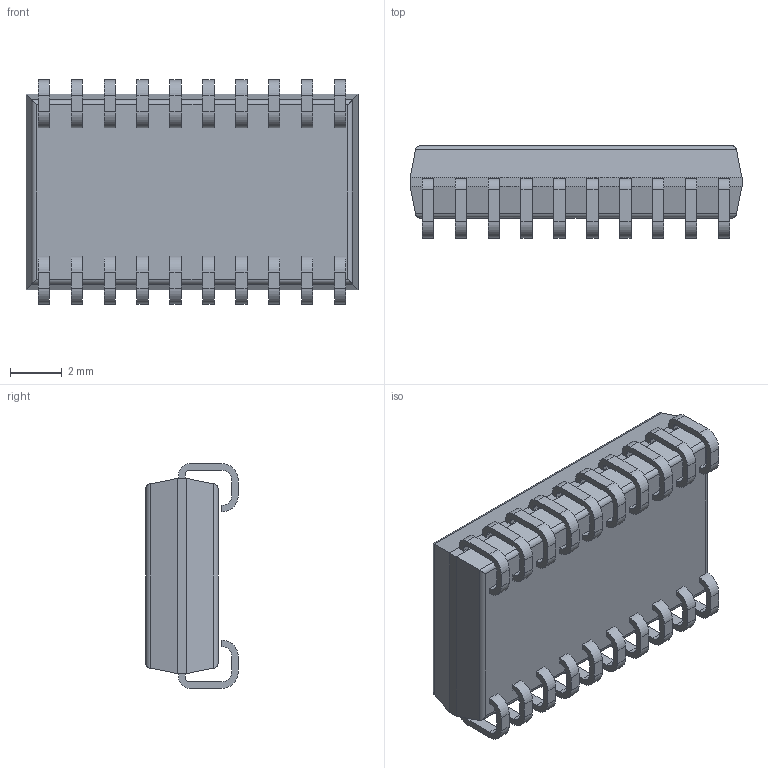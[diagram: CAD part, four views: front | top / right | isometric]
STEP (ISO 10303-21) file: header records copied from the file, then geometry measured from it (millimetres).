
FILE_DESCRIPTION (( 'STEP AP214' ), '1' );
FILE_NAME ( 'SOJ127P866X356-20.STEP', '2014-04-11T12:31:21', ( '' ), ( '' ), 'FPX Expert 2013', 'PCB Libraries', '' );
FILE_SCHEMA (( 'AUTOMOTIVE_DESIGN' ));
Length unit declared in the file: millimetre
Products named in the file (1): SOJ127P866X356-20
Bounding box: 12.8 x 3.56 x 8.66 mm (x, y, z)
Volume: 265.9 mm3; surface area: 397.8 mm2
Topology: 21 solids, 21 shells, 385 faces, 930 edges, 588 vertices
Faces by surface type: plane 255, cylinder 128, torus 2
Entity records: 13183 total; most frequent: CARTESIAN_POINT 2088, DIRECTION 2020, ORIENTED_EDGE 2020, EDGE_CURVE 1010, VECTOR 756, LINE 756, VERTEX_POINT 668, AXIS2_PLACEMENT_3D 632
